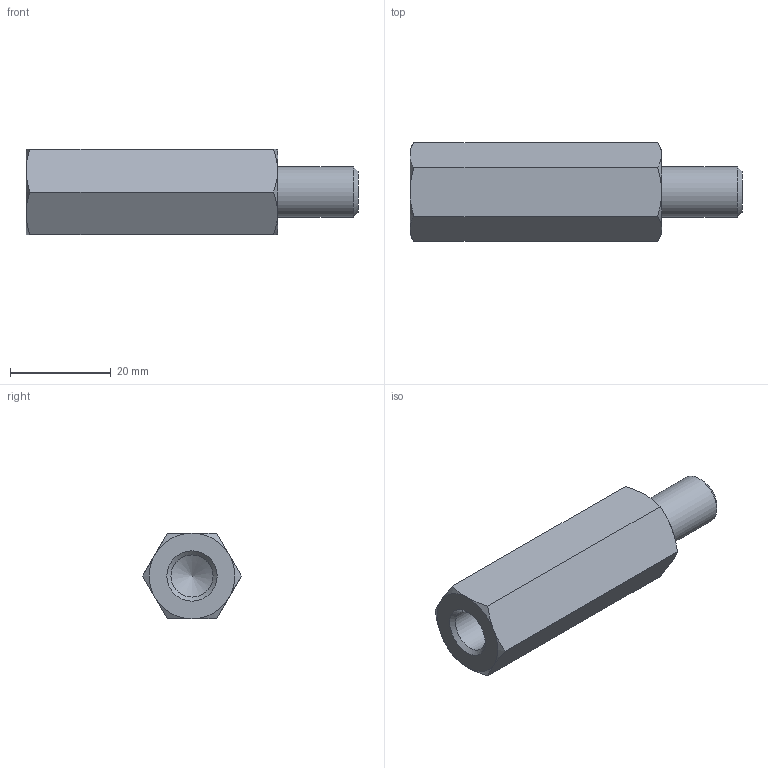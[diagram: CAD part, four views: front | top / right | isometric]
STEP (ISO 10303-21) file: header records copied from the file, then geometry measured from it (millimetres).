
FILE_DESCRIPTION( ( 'STEP AP203' ), '1' );
FILE_NAME( 'C:/Temp/Ganter_Step_05_03_2020/data/3_2/gn6220/gn6220_st/Spacer GN 6220-ST-M10-50-B.stp', '2020-03-13T05:42:53', ( 'License CC BY-ND 4.0' ), ( 'CADENAS' ), ' ', 'PARTsolutions', ' ' );
FILE_SCHEMA( ( 'CONFIG_CONTROL_DESIGN' ) );
Length unit declared in the file: millimetre
Products named in the file (1): _Spacer GN 6220-ST-M10-50-B
Bounding box: 66 x 19.63 x 17 mm (x, y, z)
Volume: 12298.1 mm3; surface area: 4569.5 mm2
Topology: 1 solids, 1 shells, 26 faces, 55 edges, 32 vertices
Faces by surface type: cone 15, plane 9, cylinder 2
Full cylindrical faces by diameter (mm): 8.376 x1, 10 x1
Entity records: 778 total; most frequent: CARTESIAN_POINT 242, DIRECTION 96, ORIENTED_EDGE 96, EDGE_CURVE 48, AXIS2_PLACEMENT_3D 45, EDGE_LOOP 32, VERTEX_POINT 31, FACE_OUTER_BOUND 28
